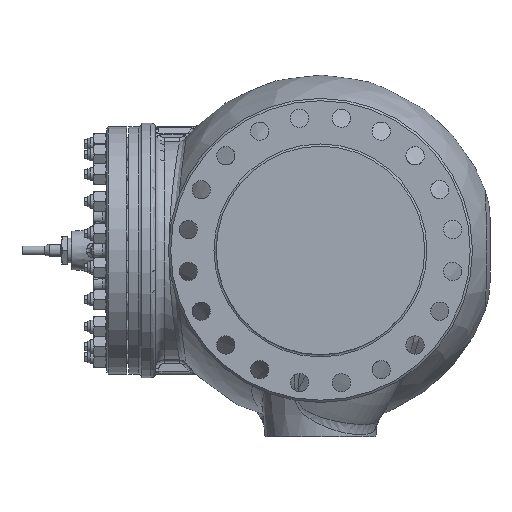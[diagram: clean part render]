
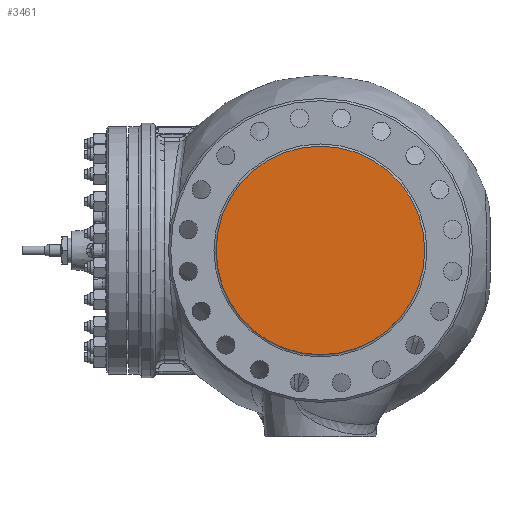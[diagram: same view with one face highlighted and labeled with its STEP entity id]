
A CAD part, left-side view. The second image highlights one B-rep face of the part: STEP entity #3461.
In plain terms, the highlighted planar face has unit normal (-1, 0, 0).
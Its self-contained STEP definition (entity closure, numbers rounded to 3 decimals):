
#3461=ADVANCED_FACE('',(#5436),#4934,.T.);
#4934=PLANE('',#21943);
#5436=FACE_OUTER_BOUND('',#6532,.T.);
#6532=EDGE_LOOP('',(#9757));
#8592=CIRCLE('',#21942,234.95);
#9757=ORIENTED_EDGE('',*,*,#17711,.T.);
#15721=VERTEX_POINT('',#30960);
#17711=EDGE_CURVE('',#15721,#15721,#8592,.T.);
#21942=AXIS2_PLACEMENT_3D('',#30959,#24426,#24427);
#21943=AXIS2_PLACEMENT_3D('',#30961,#24428,#24429);
#24426=DIRECTION('',(-1.,0.,0.));
#24427=DIRECTION('',(0.,0.,1.));
#24428=DIRECTION('',(-1.,0.,0.));
#24429=DIRECTION('',(0.,0.,1.));
#30959=CARTESIAN_POINT('',(-554.,0.,0.));
#30960=CARTESIAN_POINT('',(-554.,0.,234.95));
#30961=CARTESIAN_POINT('',(-554.,175.,0.));
